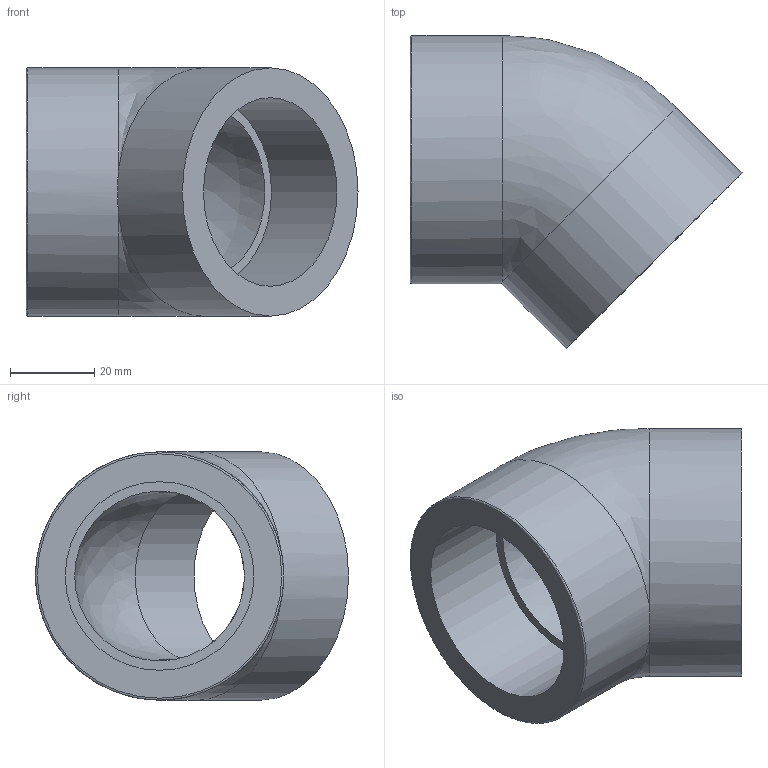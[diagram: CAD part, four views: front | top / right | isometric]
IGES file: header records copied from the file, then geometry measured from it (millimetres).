
Global section: file name: 054501015.ipt; native system: Autodesk Inventor 2015; preprocessor: unknown; author: KIM; date: 20180927.115402; units: millimetre
Bounding box: 78.9 x 74.4 x 59 mm (x, y, z)
Volume: 84724.1 mm3; surface area: 24339.8 mm2
Topology: 1 solids, 1 shells, 11 faces, 26 edges, 17 vertices
Faces by surface type: revolution 4, plane 4, cylinder 2, bspline 1
Full cylindrical faces by diameter (mm): 59 x2
